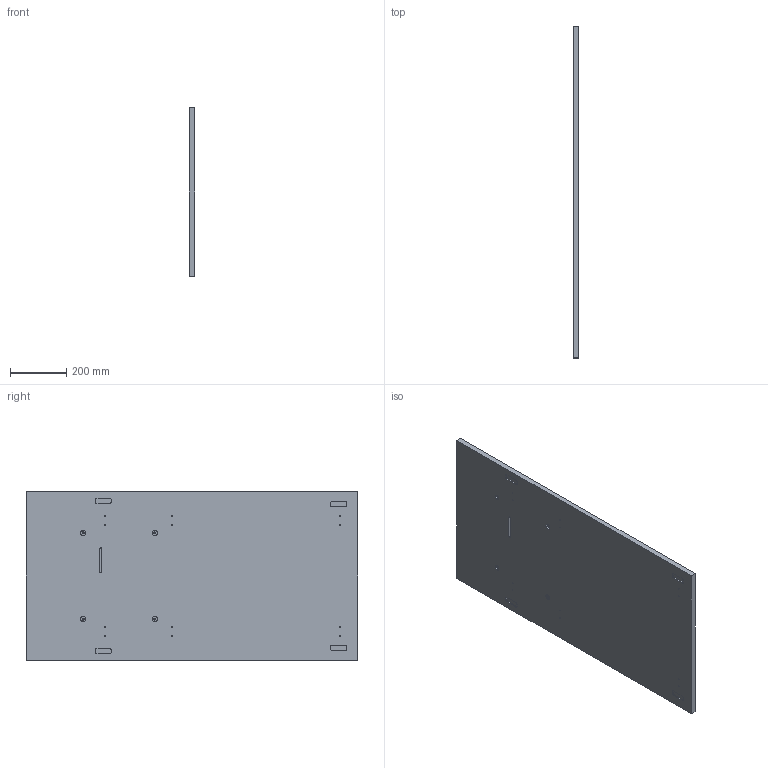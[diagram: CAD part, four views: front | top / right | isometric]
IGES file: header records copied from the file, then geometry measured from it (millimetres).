
Start section:  PTC IGES file: l5f_23w_rear.igs
Global section: file name: l5f_23w_rear.igs; native system: Creo Parametric by Parametric Technology Corporation; preprocessor: 2014310; author: mkothari; organization: Unknown; date: 20151002.174855; units: inch
Bounding box: 19.05 x 1174.75 x 598.3 mm (x, y, z)
Volume: 13353128.1 mm3; surface area: 1481360.7 mm2
Topology: 1 solids, 1 shells, 107 faces, 240 edges, 160 vertices
Faces by surface type: bspline 107
